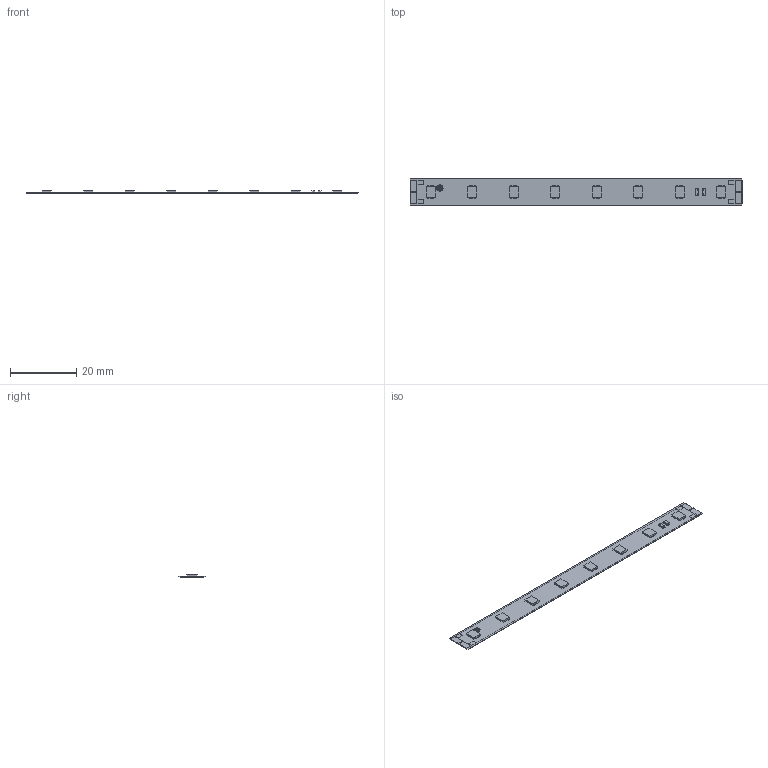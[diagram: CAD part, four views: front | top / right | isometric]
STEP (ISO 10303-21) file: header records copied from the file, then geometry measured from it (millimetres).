
FILE_DESCRIPTION((''),'2;1');
FILE_NAME('16212212_LLE-FLEX-8X100-ADV3','2022-11-30T13:30:03',('Bernhard.Fink'),(''),'CREO PARAMETRIC BY PTC INC, 2021184','CREO PARAMETRIC BY PTC INC, 2021184','');
FILE_SCHEMA(('CONFIG_CONTROL_DESIGN'));
Length unit declared in the file: millimetre
Products named in the file (1): 16212212_LLE-FLEX-8X100-ADV3
Bounding box: 100.01 x 8 x 0.8 mm (x, y, z)
Volume: 222.4 mm3; surface area: 1721.5 mm2
Topology: 1 solids, 7 shells, 379 faces, 1122 edges, 660 vertices
Faces by surface type: plane 213, cylinder 102, sphere 64
Entity records: 18181 total; most frequent: CARTESIAN_POINT 8674, DIRECTION 1958, ORIENTED_EDGE 1876, EDGE_CURVE 1058, AXIS2_PLACEMENT_3D 664, VERTEX_POINT 660, VECTOR 630, LINE 630
